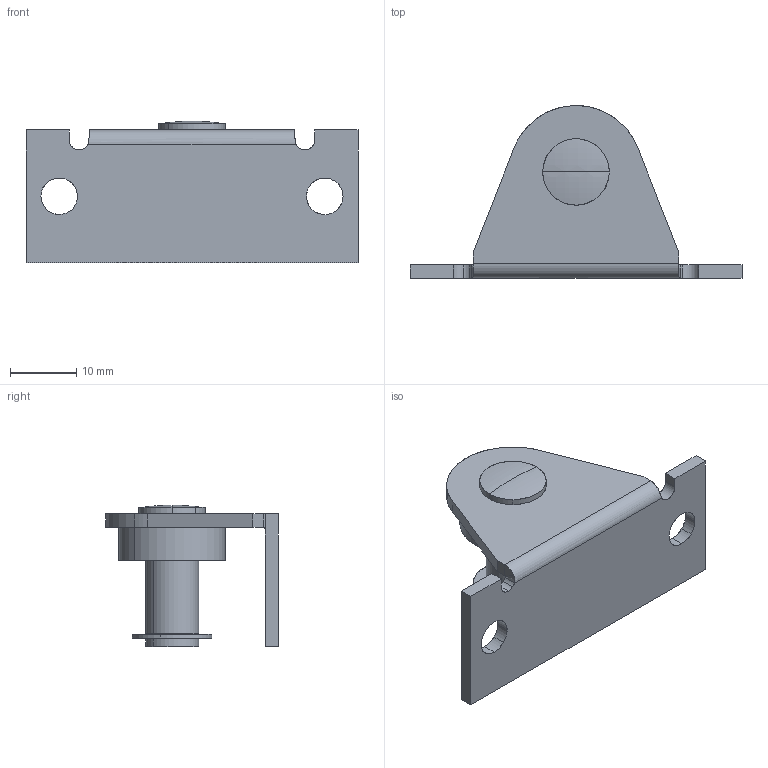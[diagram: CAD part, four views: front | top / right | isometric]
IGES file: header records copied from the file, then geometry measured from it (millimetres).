
Start section: SolidWorks IGES file using analytic representation for surfaces
Global section: file name: C:\3D-DATA\型式\ガススプリング\取付金具\ACEデータ\NA8.IGS; native system: SolidWorks 2007; preprocessor: SolidWorks 2007; author: SW; date: 120619.102215; units: millimetre
Bounding box: 50 x 26 x 21.29 mm (x, y, z)
Surface area: 4593.8 mm2 (no closed solid volume)
Topology: 0 solids, 0 shells, 86 faces, 1233 edges, 1233 vertices
Faces by surface type: revolution 57, bspline 29
